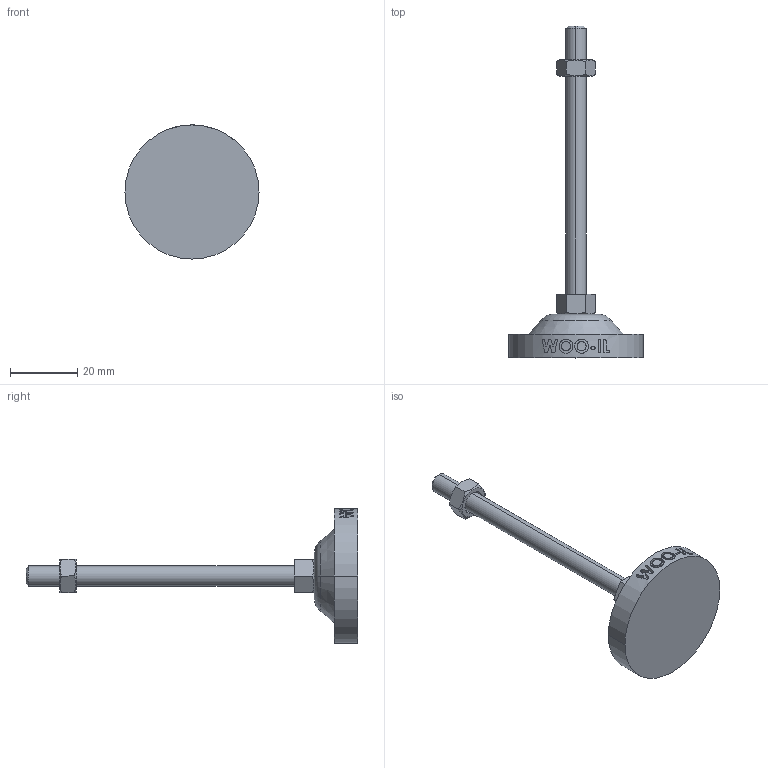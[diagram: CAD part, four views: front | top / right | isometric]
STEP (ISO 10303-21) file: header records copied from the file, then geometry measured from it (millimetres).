
FILE_DESCRIPTION (( 'STEP AP214' ), '1' );
FILE_NAME ('RB40-M6-80.step', '2021-01-18T05:47:55', ( '' ), ( '' ), 'SwSTEP 2.0', 'SolidWorks 2019', '' );
FILE_SCHEMA (( 'AUTOMOTIVE_DESIGN' ));
Length unit declared in the file: millimetre
Products named in the file (2): RB40-M6-80
Bounding box: 40 x 99 x 40 mm (x, y, z)
Volume: 13133.5 mm3; surface area: 6694.3 mm2
Topology: 2 solids, 3 shells, 128 faces, 317 edges, 206 vertices
Faces by surface type: plane 48, cylinder 42, bspline 18, cone 16, torus 4
Entity records: 5234 total; most frequent: CARTESIAN_POINT 2392, ORIENTED_EDGE 634, DIRECTION 479, EDGE_CURVE 317, VERTEX_POINT 206, AXIS2_PLACEMENT_3D 176, EDGE_LOOP 141, FACE_OUTER_BOUND 128
